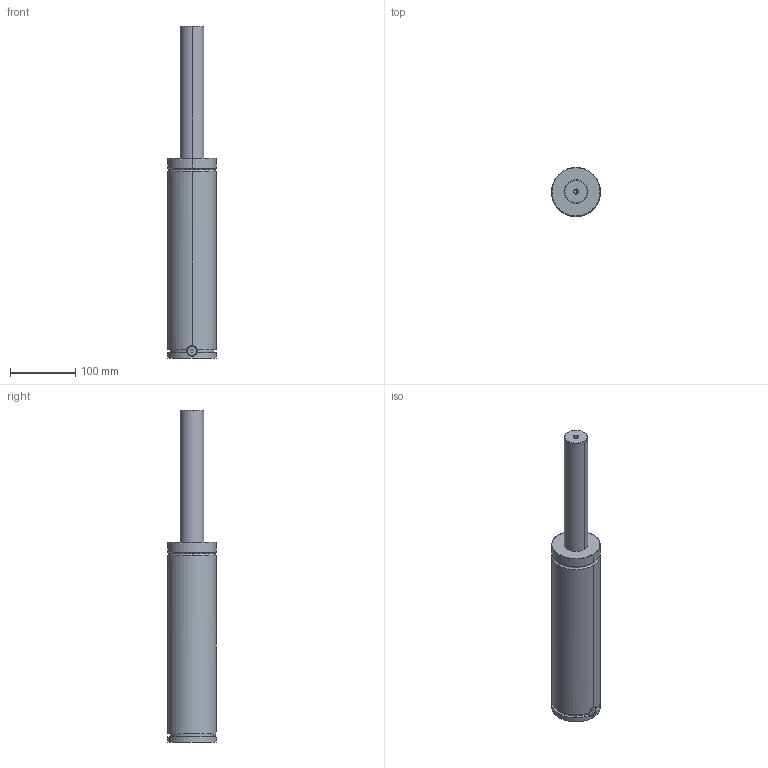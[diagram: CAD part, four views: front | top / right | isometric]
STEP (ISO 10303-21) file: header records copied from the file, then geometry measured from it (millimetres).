
FILE_DESCRIPTION( ( '' ), '1' );
FILE_NAME( 'W:/LIBRERIA TECAPRES®/DIBUJOS STRACK 2012/TPS/TPS 1500/TPS 1500x200.stp', '2012-05-15T13:13:46', ( '' ), ( '' ), ' ', ' ', ' ' );
FILE_SCHEMA( ( 'automotive_design' ) );
Length unit declared in the file: millimetre
Products named in the file (3): 1; 2; 3
Bounding box: 75 x 75 x 510 mm (x, y, z)
Volume: 1348869.2 mm3; surface area: 133717.9 mm2
Topology: 3 solids, 3 shells, 68 faces, 152 edges, 98 vertices
Faces by surface type: cylinder 32, plane 24, torus 6, cone 6
Entity records: 3901 total; most frequent: CARTESIAN_POINT 473, DIRECTION 367, STYLED_ITEM 319, PRESENTATION_STYLE_ASSIGNMENT 319, COLOUR_RGB 319, ORIENTED_EDGE 300, AXIS2_PLACEMENT_3D 154, EDGE_CURVE 150
